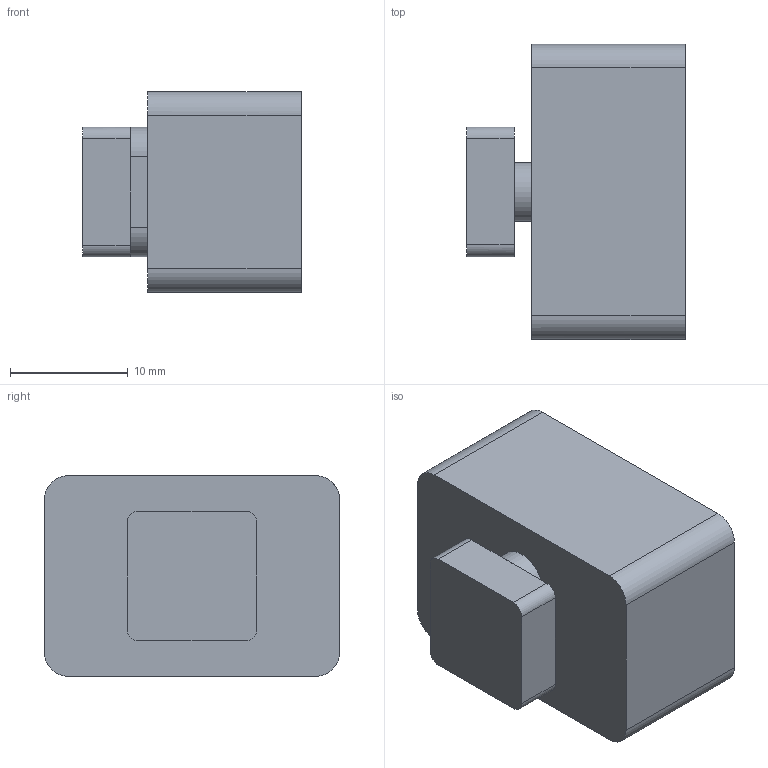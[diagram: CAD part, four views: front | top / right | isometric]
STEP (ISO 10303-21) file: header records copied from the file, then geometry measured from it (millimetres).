
FILE_DESCRIPTION(('CATIA V5 STEP Exchange'),'2;1');
FILE_NAME('C:\Users\Administrator\Desktop\垫块.stp','2021-10-29T02:41:17+00:00',('none'),('none'),'CATIA Version 5 Release 20 GA (IN-10)','CATIA V5 STEP AP214','none');
FILE_SCHEMA(('AUTOMOTIVE_DESIGN { 1 0 10303 214 1 1 1 1 }'));
Length unit declared in the file: millimetre
Products named in the file (1): Part1
Bounding box: 18.5 x 25 x 17 mm (x, y, z)
Volume: 5177.4 mm3; surface area: 2614.3 mm2
Topology: 1 solids, 1 shells, 38 faces, 102 edges, 67 vertices
Faces by surface type: plane 23, cylinder 15
Entity records: 1337 total; most frequent: CARTESIAN_POINT 241, ORIENTED_EDGE 204, DIRECTION 164, EDGE_CURVE 102, VECTOR 69, LINE 69, VERTEX_POINT 67, AXIS2_PLACEMENT_3D 63
